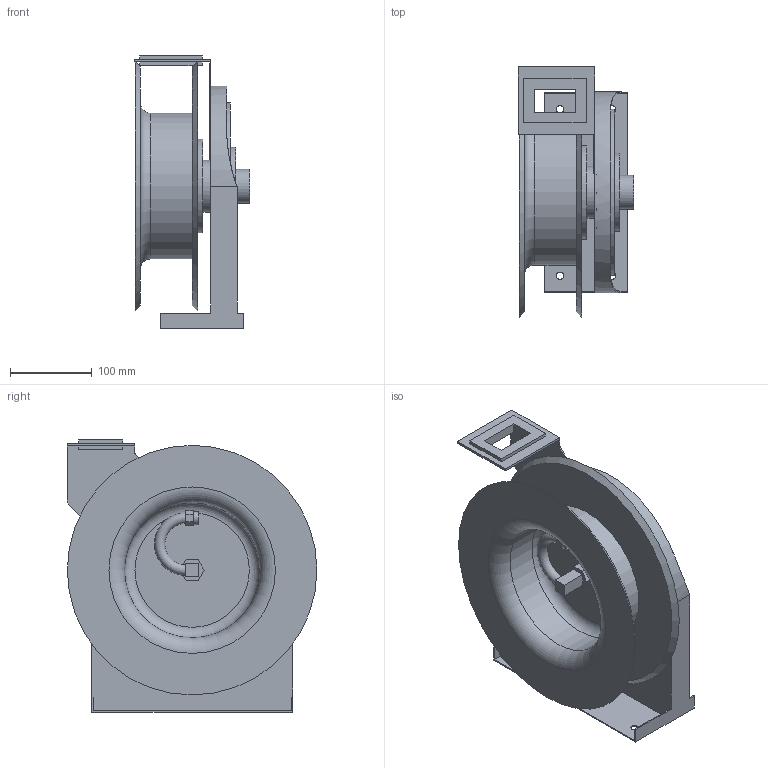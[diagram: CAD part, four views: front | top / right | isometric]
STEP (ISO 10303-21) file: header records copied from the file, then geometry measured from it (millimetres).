
FILE_DESCRIPTION( ( 'Unknown' ), '1' );
FILE_NAME( 'J:/NPD/RE 12893 3D WEB MODELS/4000 SERIES/4000 OXP TW.stp', 'Unknown', ( 'Unknown' ), ( 'Unknown' ), 'PSStep 10.1', 'Unknown', ' ' );
FILE_SCHEMA( ( 'AUTOMOTIVE_DESIGN { 1 0 10303 214 1 1 1 1 }' ) );
Length unit declared in the file: millimetre
Products named in the file (1): 1
Bounding box: 141.53 x 305.16 x 332.44 mm (x, y, z)
Volume: 2104457 mm3; surface area: 593669.4 mm2
Topology: 1 solids, 1 shells, 116 faces, 279 edges, 182 vertices
Faces by surface type: plane 87, cylinder 21, cone 4, torus 4
Full cylindrical faces by diameter (mm): 8.712 x4, 11.862 x1, 15.281 x1, 15.875 x1, 25.4 x1, 41.275 x1, 63.5 x1, 95.25 x1, 114.3 x1, 165.1 x1, 177.8 x1, 203.2 x1
Entity records: 4168 total; most frequent: CARTESIAN_POINT 593, DIRECTION 542, ORIENTED_EDGE 494, EDGE_CURVE 247, AXIS2_PLACEMENT_3D 182, LINE 178, VECTOR 178, VERTEX_POINT 173
